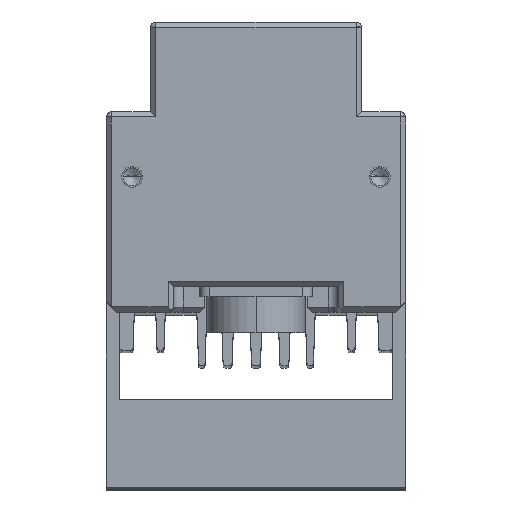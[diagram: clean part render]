
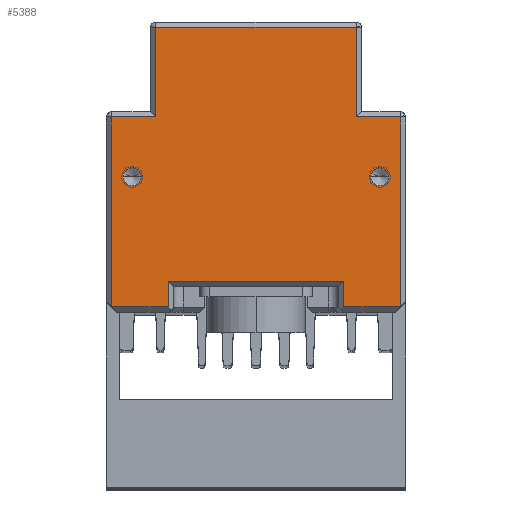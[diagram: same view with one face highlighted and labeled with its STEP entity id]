
A CAD part, top view. The second image highlights one B-rep face of the part: STEP entity #5388.
In plain terms, the highlighted planar face has unit normal (0, 0, 1).
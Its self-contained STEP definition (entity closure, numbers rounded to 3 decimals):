
#757=CARTESIAN_POINT('',(-24.,15.794,185.));
#758=DIRECTION('',(0.,0.,1.));
#759=DIRECTION('',(-1.,0.,0.));
#760=AXIS2_PLACEMENT_3D('',#757,#758,#759);
#762=CARTESIAN_POINT('',(-24.,15.794,185.));
#763=DIRECTION('',(0.,0.,1.));
#764=DIRECTION('',(1.,0.,0.));
#765=AXIS2_PLACEMENT_3D('',#762,#763,#764);
#767=CARTESIAN_POINT('',(24.,15.794,185.));
#768=DIRECTION('',(0.,0.,1.));
#769=DIRECTION('',(-1.,0.,0.));
#770=AXIS2_PLACEMENT_3D('',#767,#768,#769);
#772=CARTESIAN_POINT('',(24.,15.794,185.));
#773=DIRECTION('',(0.,0.,1.));
#774=DIRECTION('',(1.,0.,0.));
#775=AXIS2_PLACEMENT_3D('',#772,#773,#774);
#777=DIRECTION('',(1.,0.,0.));
#778=VECTOR('',#777,11.);
#779=CARTESIAN_POINT('',(-28.,-9.406,185.));
#780=LINE('',#779,#778);
#781=DIRECTION('',(0.,-1.,0.));
#782=VECTOR('',#781,36.8);
#783=CARTESIAN_POINT('',(-28.,27.394,185.));
#784=LINE('',#783,#782);
#785=DIRECTION('',(-1.,0.,0.));
#786=VECTOR('',#785,8.55);
#787=CARTESIAN_POINT('',(-19.45,27.394,185.));
#788=LINE('',#787,#786);
#789=DIRECTION('',(0.,-1.,0.));
#790=VECTOR('',#789,17.4);
#791=CARTESIAN_POINT('',(-19.45,44.794,185.));
#792=LINE('',#791,#790);
#793=DIRECTION('',(-1.,0.,0.));
#794=VECTOR('',#793,38.899);
#795=CARTESIAN_POINT('',(19.45,44.794,185.));
#796=LINE('',#795,#794);
#797=DIRECTION('',(0.,1.,0.));
#798=VECTOR('',#797,17.4);
#799=CARTESIAN_POINT('',(19.45,27.394,185.));
#800=LINE('',#799,#798);
#801=DIRECTION('',(-1.,0.,0.));
#802=VECTOR('',#801,8.55);
#803=CARTESIAN_POINT('',(28.,27.394,185.));
#804=LINE('',#803,#802);
#805=DIRECTION('',(0.,1.,0.));
#806=VECTOR('',#805,36.8);
#807=CARTESIAN_POINT('',(28.,-9.406,185.));
#808=LINE('',#807,#806);
#809=DIRECTION('',(1.,0.,0.));
#810=VECTOR('',#809,11.);
#811=CARTESIAN_POINT('',(17.,-9.406,185.));
#812=LINE('',#811,#810);
#813=DIRECTION('',(0.,-1.,0.));
#814=VECTOR('',#813,5.);
#815=CARTESIAN_POINT('',(17.,-4.406,185.));
#816=LINE('',#815,#814);
#817=DIRECTION('',(-1.,0.,0.));
#818=VECTOR('',#817,34.);
#819=CARTESIAN_POINT('',(17.,-4.406,185.));
#820=LINE('',#819,#818);
#821=DIRECTION('',(0.,1.,0.));
#822=VECTOR('',#821,5.);
#823=CARTESIAN_POINT('',(-17.,-9.406,185.));
#824=LINE('',#823,#822);
#4129=CARTESIAN_POINT('',(-28.,-9.406,185.));
#4130=CARTESIAN_POINT('',(-17.,-9.406,185.));
#4131=VERTEX_POINT('',#4129);
#4132=VERTEX_POINT('',#4130);
#4141=CARTESIAN_POINT('',(-28.,27.394,185.));
#4142=VERTEX_POINT('',#4141);
#4145=CARTESIAN_POINT('',(-19.45,27.394,185.));
#4146=VERTEX_POINT('',#4145);
#4149=CARTESIAN_POINT('',(19.45,27.394,185.));
#4150=CARTESIAN_POINT('',(19.45,44.794,185.));
#4151=VERTEX_POINT('',#4149);
#4152=VERTEX_POINT('',#4150);
#4159=CARTESIAN_POINT('',(-19.45,44.794,185.));
#4160=VERTEX_POINT('',#4159);
#4165=CARTESIAN_POINT('',(28.,-9.406,185.));
#4166=CARTESIAN_POINT('',(28.,27.394,185.));
#4167=VERTEX_POINT('',#4165);
#4168=VERTEX_POINT('',#4166);
#4179=CARTESIAN_POINT('',(17.,-9.406,185.));
#4180=VERTEX_POINT('',#4179);
#4201=CARTESIAN_POINT('',(17.,-4.406,185.));
#4202=VERTEX_POINT('',#4201);
#4203=CARTESIAN_POINT('',(-17.,-4.406,185.));
#4204=VERTEX_POINT('',#4203);
#4235=CARTESIAN_POINT('',(-25.75,15.794,185.));
#4236=CARTESIAN_POINT('',(-22.25,15.794,185.));
#4237=VERTEX_POINT('',#4235);
#4238=VERTEX_POINT('',#4236);
#4245=CARTESIAN_POINT('',(22.25,15.794,185.));
#4246=CARTESIAN_POINT('',(25.75,15.794,185.));
#4247=VERTEX_POINT('',#4245);
#4248=VERTEX_POINT('',#4246);
#5346=CARTESIAN_POINT('',(0.,0.,185.));
#5347=DIRECTION('',(0.,0.,1.));
#5348=DIRECTION('',(1.,0.,0.));
#5349=AXIS2_PLACEMENT_3D('',#5346,#5347,#5348);
#5350=PLANE('',#5349);
#5352=ORIENTED_EDGE('',*,*,#5351,.F.);
#5354=ORIENTED_EDGE('',*,*,#5353,.F.);
#5356=ORIENTED_EDGE('',*,*,#5355,.F.);
#5358=ORIENTED_EDGE('',*,*,#5357,.F.);
#5360=ORIENTED_EDGE('',*,*,#5359,.F.);
#5362=ORIENTED_EDGE('',*,*,#5361,.F.);
#5364=ORIENTED_EDGE('',*,*,#5363,.F.);
#5366=ORIENTED_EDGE('',*,*,#5365,.F.);
#5368=ORIENTED_EDGE('',*,*,#5367,.F.);
#5370=ORIENTED_EDGE('',*,*,#5369,.F.);
#5372=ORIENTED_EDGE('',*,*,#5371,.T.);
#5373=ORIENTED_EDGE('',*,*,#5335,.F.);
#5374=EDGE_LOOP('',(#5352,#5354,#5356,#5358,#5360,#5362,#5364,#5366,#5368,#5370,
#5372,#5373));
#5375=FACE_OUTER_BOUND('',#5374,.F.);
#5377=ORIENTED_EDGE('',*,*,#5376,.T.);
#5379=ORIENTED_EDGE('',*,*,#5378,.T.);
#5380=EDGE_LOOP('',(#5377,#5379));
#5381=FACE_BOUND('',#5380,.F.);
#5383=ORIENTED_EDGE('',*,*,#5382,.T.);
#5385=ORIENTED_EDGE('',*,*,#5384,.T.);
#5386=EDGE_LOOP('',(#5383,#5385));
#5387=FACE_BOUND('',#5386,.F.);
#761=CIRCLE('',#760,1.75);
#766=CIRCLE('',#765,1.75);
#771=CIRCLE('',#770,1.75);
#776=CIRCLE('',#775,1.75);
#5335=EDGE_CURVE('',#4132,#4204,#824,.T.);
#5351=EDGE_CURVE('',#4131,#4132,#780,.T.);
#5353=EDGE_CURVE('',#4142,#4131,#784,.T.);
#5355=EDGE_CURVE('',#4146,#4142,#788,.T.);
#5357=EDGE_CURVE('',#4160,#4146,#792,.T.);
#5359=EDGE_CURVE('',#4152,#4160,#796,.T.);
#5361=EDGE_CURVE('',#4151,#4152,#800,.T.);
#5363=EDGE_CURVE('',#4168,#4151,#804,.T.);
#5365=EDGE_CURVE('',#4167,#4168,#808,.T.);
#5367=EDGE_CURVE('',#4180,#4167,#812,.T.);
#5369=EDGE_CURVE('',#4202,#4180,#816,.T.);
#5371=EDGE_CURVE('',#4202,#4204,#820,.T.);
#5376=EDGE_CURVE('',#4247,#4248,#771,.T.);
#5378=EDGE_CURVE('',#4248,#4247,#776,.T.);
#5382=EDGE_CURVE('',#4237,#4238,#761,.T.);
#5384=EDGE_CURVE('',#4238,#4237,#766,.T.);
#5388=ADVANCED_FACE('',(#5375,#5381,#5387),#5350,.T.);
